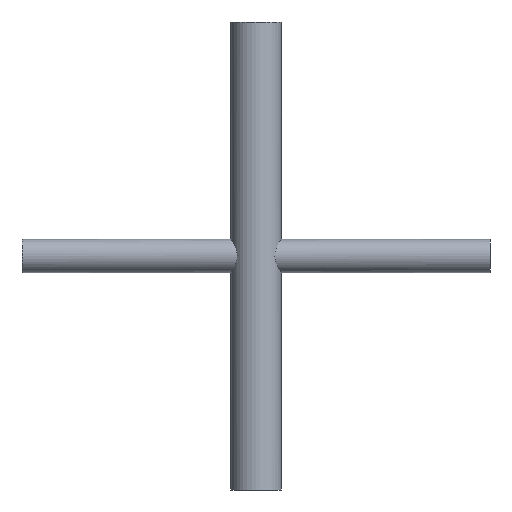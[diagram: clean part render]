
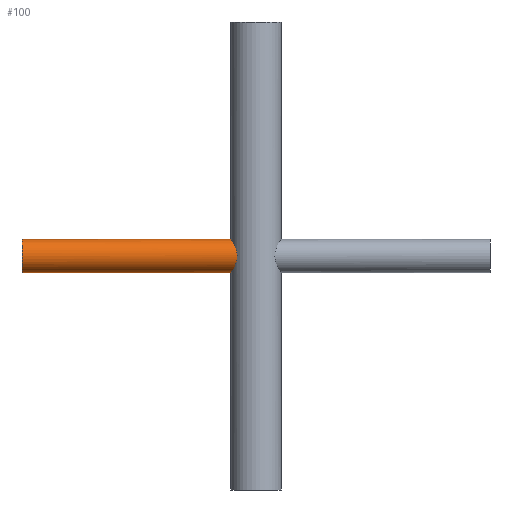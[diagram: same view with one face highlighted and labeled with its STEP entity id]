
A CAD part, front view. The second image highlights one B-rep face of the part: STEP entity #100.
In plain terms, the highlighted cylindrical face has radius 3.175 mm (diameter 6.35 mm), a partial arc.
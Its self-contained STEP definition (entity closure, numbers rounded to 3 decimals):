
#4 = CARTESIAN_POINT ( 'NONE',  ( -4.748, -0.43, 3.153 ) ) ;
#18 = CARTESIAN_POINT ( 'NONE',  ( -3.695, -3.006, -1.041 ) ) ;
#21 = CARTESIAN_POINT ( 'NONE',  ( -4.763, 0., -3.175 ) ) ;
#28 = DIRECTION ( 'NONE',  ( 0., 0., -1. ) ) ;
#33 = CARTESIAN_POINT ( 'NONE',  ( -44.45, 0., -3.175 ) ) ;
#50 = ORIENTED_EDGE ( 'NONE', *, *, #751, .T. ) ;
#57 = CIRCLE ( 'NONE', #224, 3.175 ) ;
#60 = EDGE_CURVE ( 'NONE', #289, #356, #632, .T. ) ;
#64 = EDGE_CURVE ( 'NONE', #101, #523, #689, .T. ) ;
#75 = CARTESIAN_POINT ( 'NONE',  ( -4.763, 0., 3.175 ) ) ;
#78 = CARTESIAN_POINT ( 'NONE',  ( -3.698, -3.002, 1.053 ) ) ;
#80 = CARTESIAN_POINT ( 'NONE',  ( -3.892, -2.748, -1.603 ) ) ;
#89 = B_SPLINE_CURVE_WITH_KNOTS ( 'NONE', 3,
 ( #75, #364, #4, #139, #545, #238, #646, #294, #702, #355, #181, #78, #602, #247, #306, #659, #715, #368, #18, #430, #80, #490, #141, #548, #194, #605, #250, #661, #309, #718, #370, #21 ),
 .UNSPECIFIED., .F., .F.,
 ( 4, 2, 2, 2, 2, 2, 2, 2, 2, 2, 2, 2, 2, 2, 2, 4 ),
 ( 0., 0.001, 0.001, 0.003, 0.003, 0.004, 0.004, 0.005, 0.006, 0.006, 0.007, 0.008, 0.008, 0.009, 0.01, 0.01 ),
 .UNSPECIFIED. ) ;
#100 = ADVANCED_FACE ( 'NONE', ( #111 ), #277, .T. ) ;
#101 = VERTEX_POINT ( 'NONE', #33 ) ;
#111 = FACE_OUTER_BOUND ( 'NONE', #589, .T. ) ;
#112 = DIRECTION ( 'NONE',  ( 1., 0., 0. ) ) ;
#139 = CARTESIAN_POINT ( 'NONE',  ( -4.692, -0.845, 3.068 ) ) ;
#141 = CARTESIAN_POINT ( 'NONE',  ( -4.119, -2.396, -2.094 ) ) ;
#181 = CARTESIAN_POINT ( 'NONE',  ( -3.823, -2.842, 1.431 ) ) ;
#194 = CARTESIAN_POINT ( 'NONE',  ( -4.346, -1.957, -2.509 ) ) ;
#204 = CARTESIAN_POINT ( 'NONE',  ( -4.763, 0., -3.175 ) ) ;
#222 = DIRECTION ( 'NONE',  ( 1., 0., 0. ) ) ;
#224 = AXIS2_PLACEMENT_3D ( 'NONE', #458, #112, #524 ) ;
#238 = CARTESIAN_POINT ( 'NONE',  ( -4.494, -1.625, 2.759 ) ) ;
#247 = CARTESIAN_POINT ( 'NONE',  ( -3.571, -3.152, 0.437 ) ) ;
#250 = CARTESIAN_POINT ( 'NONE',  ( -4.544, -1.438, -2.838 ) ) ;
#277 = CYLINDRICAL_SURFACE ( 'NONE', #466, 3.175 ) ;
#289 = VERTEX_POINT ( 'NONE', #413 ) ;
#294 = CARTESIAN_POINT ( 'NONE',  ( -4.121, -2.392, 2.098 ) ) ;
#306 = CARTESIAN_POINT ( 'NONE',  ( -3.55, -3.175, 0.22 ) ) ;
#309 = CARTESIAN_POINT ( 'NONE',  ( -4.69, -0.854, -3.066 ) ) ;
#319 = DIRECTION ( 'NONE',  ( 1., 0., 0. ) ) ;
#338 = DIRECTION ( 'NONE',  ( 1., 0., 0. ) ) ;
#349 = EDGE_CURVE ( 'NONE', #356, #523, #89, .T. ) ;
#355 = CARTESIAN_POINT ( 'NONE',  ( -3.894, -2.746, 1.607 ) ) ;
#356 = VERTEX_POINT ( 'NONE', #425 ) ;
#364 = CARTESIAN_POINT ( 'NONE',  ( -4.763, -0.217, 3.175 ) ) ;
#368 = CARTESIAN_POINT ( 'NONE',  ( -3.642, -3.069, -0.841 ) ) ;
#370 = CARTESIAN_POINT ( 'NONE',  ( -4.762, -0.218, -3.175 ) ) ;
#377 = VECTOR ( 'NONE', #338, 1000. ) ;
#402 = VECTOR ( 'NONE', #222, 1000. ) ;
#413 = CARTESIAN_POINT ( 'NONE',  ( -44.45, 0., 3.175 ) ) ;
#423 = ORIENTED_EDGE ( 'NONE', *, *, #60, .F. ) ;
#425 = CARTESIAN_POINT ( 'NONE',  ( -4.763, 0., 3.175 ) ) ;
#430 = CARTESIAN_POINT ( 'NONE',  ( -3.82, -2.846, -1.422 ) ) ;
#454 = ORIENTED_EDGE ( 'NONE', *, *, #64, .T. ) ;
#458 = CARTESIAN_POINT ( 'NONE',  ( -44.45, 0., 0. ) ) ;
#465 = ORIENTED_EDGE ( 'NONE', *, *, #349, .F. ) ;
#466 = AXIS2_PLACEMENT_3D ( 'NONE', #614, #319, #28 ) ;
#490 = CARTESIAN_POINT ( 'NONE',  ( -4.041, -2.524, -1.937 ) ) ;
#523 = VERTEX_POINT ( 'NONE', #204 ) ;
#524 = DIRECTION ( 'NONE',  ( 0., 0., -1. ) ) ;
#545 = CARTESIAN_POINT ( 'NONE',  ( -4.649, -1.05, 3.003 ) ) ;
#548 = CARTESIAN_POINT ( 'NONE',  ( -4.272, -2.111, -2.38 ) ) ;
#589 = EDGE_LOOP ( 'NONE', ( #423, #50, #454, #465 ) ) ;
#602 = CARTESIAN_POINT ( 'NONE',  ( -3.645, -3.066, 0.85 ) ) ;
#605 = CARTESIAN_POINT ( 'NONE',  ( -4.482, -1.622, -2.737 ) ) ;
#614 = CARTESIAN_POINT ( 'NONE',  ( -44.45, 0., 0. ) ) ;
#632 = LINE ( 'NONE', #688, #377 ) ;
#646 = CARTESIAN_POINT ( 'NONE',  ( -4.349, -1.967, 2.524 ) ) ;
#659 = CARTESIAN_POINT ( 'NONE',  ( -3.549, -3.175, -0.21 ) ) ;
#661 = CARTESIAN_POINT ( 'NONE',  ( -4.649, -1.054, -3.002 ) ) ;
#668 = CARTESIAN_POINT ( 'NONE',  ( -44.45, 0., -3.175 ) ) ;
#688 = CARTESIAN_POINT ( 'NONE',  ( -44.45, 0., 3.175 ) ) ;
#689 = LINE ( 'NONE', #668, #402 ) ;
#702 = CARTESIAN_POINT ( 'NONE',  ( -4.043, -2.521, 1.941 ) ) ;
#715 = CARTESIAN_POINT ( 'NONE',  ( -3.569, -3.154, -0.423 ) ) ;
#718 = CARTESIAN_POINT ( 'NONE',  ( -4.747, -0.434, -3.152 ) ) ;
#751 = EDGE_CURVE ( 'NONE', #289, #101, #57, .T. ) ;
